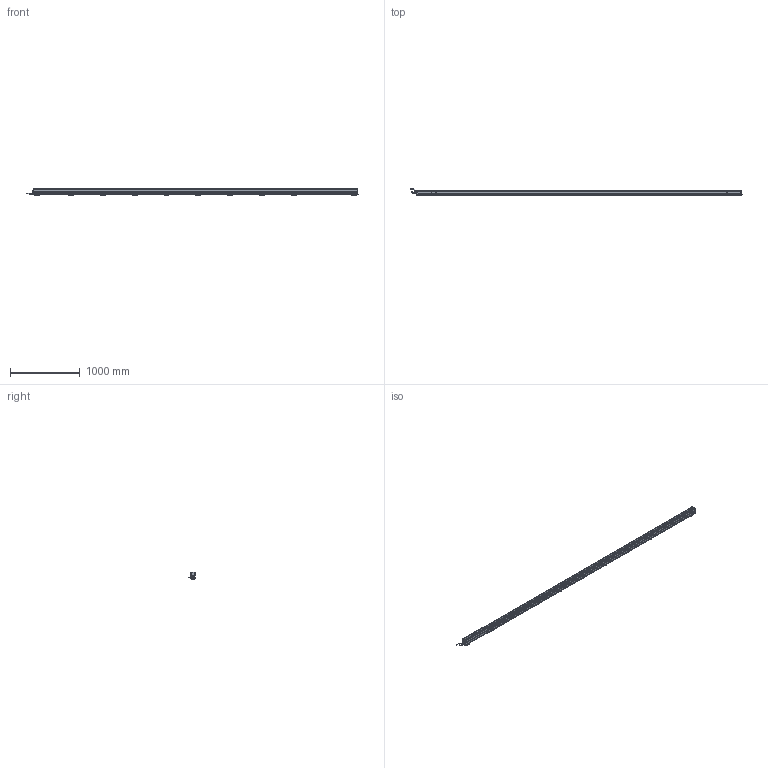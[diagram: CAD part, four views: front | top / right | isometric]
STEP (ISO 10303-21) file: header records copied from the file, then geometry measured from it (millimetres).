
FILE_DESCRIPTION(/* description */ (''),/* implementation_level */ '2;1');
FILE_NAME(/* name */ 'THUNDERION2_3D_4500-4695',/* time_stamp */ '2017-09-28T12:47:09+02:00',/* author */ (''),/* organization */ (''),/* preprocessor_version */ 'ST-DEVELOPER v15.7',/* originating_system */ 'HiCAD 2015 2002.1 Build 408',/* authorisation */ '');
FILE_SCHEMA (('AUTOMOTIVE_DESIGN { 1 0 10303 214 1 1 1 1 }'));
Products named in the file (154): Root; -_ThunderION 4500/4695; -_Side profile; -_Bar; -_Connector straight; EXTRUDED SOLID_0; -_Cord; REVOLVED SOLID_1; REVOLVED SOLID_3; DIN 13-M12x1,5; -_Connector angled; REVOLVED SOLID_2; 4532000100_Mounting bracket bars; -_Side piece; -_Slide piece; -_Bracket small; DIN 13-M3; DIN 76-M3; -_Cable End; light pipe M; light pipe L; -_Cap CE; -_Stud M4; -_Connector M12 male 5 pole_1; -_Contacts; ABSR_1_2_1_1_Inner part; ABSR_1_2_1_2_Inner part; bus; Pg 9; -_Ring tongue terminal; 9230000020_Nut M4; GEWINDE; 9240100020_Spring washer M4; ISO 7051-ST3.5x9.5-C-H_Tapping screws_0; -_Fill; -_Dead end; -_Cap DE; -_Emitter; -_Support Side Profile; -_End Plate
Assembly tree (153 placements, depth 6):
  Root
    -_ThunderION 4500/4695
      -_Side profile
      -_Side profile
      -_Bar
      -_Connector straight
        EXTRUDED SOLID_0
        -_Cord
        REVOLVED SOLID_1
        REVOLVED SOLID_3
          DIN 13-M12x1,5
      -_Connector angled
        REVOLVED SOLID_1
        EXTRUDED SOLID_0
        -_Cord
        REVOLVED SOLID_2
        REVOLVED SOLID_3
          DIN 13-M12x1,5
      4532000100_Mounting bracket bars
        -_Side piece
        -_Side piece
        -_Slide piece
        -_Bracket small
          DIN 13-M3
          DIN 13-M3
          DIN 76-M3
          DIN 76-M3
      4532000100_Mounting bracket bars
        -_Side piece
        -_Side piece
        -_Slide piece
        -_Bracket small
          DIN 13-M3
          DIN 13-M3
          DIN 76-M3
          DIN 76-M3
      4532000100_Mounting bracket bars
        -_Side piece
        -_Side piece
        -_Slide piece
        -_Bracket small
          DIN 13-M3
          DIN 13-M3
          DIN 76-M3
          DIN 76-M3
      4532000100_Mounting bracket bars
        -_Side piece
        -_Side piece
        -_Slide piece
        -_Bracket small
          DIN 13-M3
          DIN 13-M3
          DIN 76-M3
          DIN 76-M3
      4532000100_Mounting bracket bars
        -_Side piece
        -_Side piece
        -_Slide piece
        -_Bracket small
          DIN 13-M3
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Bounding box: 4773.34 x 92.21 x 113 mm (x, y, z)
Volume: 14813994.1 mm3; surface area: 3373306.2 mm2
Topology: 141 solids, 171 shells, 8077 faces, 20543 edges, 12341 vertices
Faces by surface type: cylinder 3338, plane 3245, torus 456, bspline 440, sphere 409, cone 189
Full cylindrical faces by diameter (mm): 0.8 x10, 1 x10, 2.387 x40, 2.5 x1, 2.64 x16, 3 x80, 3.141 x2, 3.5 x8, 4 x26, 4.2 x3, 4.4 x1, 5 x4, 5.5 x50, 7.3 x8, 8 x2, 8.4 x2, 9 x6, 9.6 x1, 10 x2, 10.16 x1, 10.5 x2, 11 x4, 12 x5, 12.8 x1, 13.8 x4, 13.86 x1, 14.5 x3, 15.199 x1, 15.2 x1
Entity records: 465061 total; most frequent: CARTESIAN_POINT 119732, DIRECTION 40037, PRESENTATION_STYLE_ASSIGNMENT 38985, OVER_RIDING_STYLED_ITEM 38848, DRAUGHTING_PRE_DEFINED_CURVE_FONT 38786, CURVE_STYLE 38786, ORIENTED_EDGE 38786, EDGE_CURVE 19393
